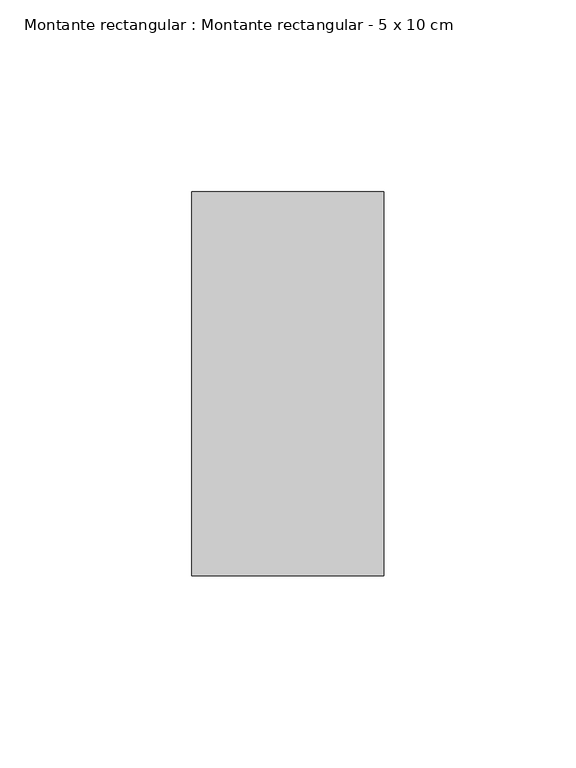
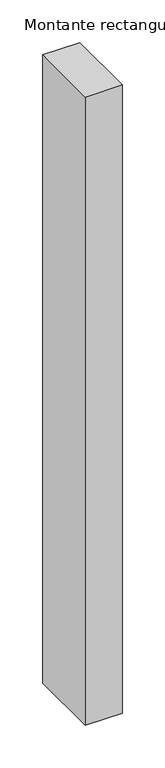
"""IFC4 building model written with IfcOpenShell, lengths in millimetres: member geometry, Montante rectangular : Montante rectangular - 5 x 10 cm."""

import ifcopenshell
import ifcopenshell.guid

model = None  # the IFC model being written
_history = None  # IfcOwnerHistory: only IFC2X3 demands one
_inside = {}  # id of a spatial element -> (the spatial element, [elements in it])
_under = {}  # id of a project, library or spatial element -> (it, [spatial elements below it])
_declared = {}  # id of a project -> (the project, [libraries it declares])
_typed = {}  # id of a type object -> (the type object, [elements of that type])
_made_of = {}  # id of a material, layer set ... -> (it, [elements and type objects made of it])


def new_model(schema):
    """Start an empty IFC model of exactly this schema.

    Asked for "IFC4X3", IfcOpenShell would pick the latest addendum, in which some entities
    have other attributes; the version numbers below select the first issue.
    IFC2X3 requires an IfcOwnerHistory on every rooted entity: one is made here for all.
    """
    global model, _history
    if schema == "IFC4X3":
        model = ifcopenshell.file(schema_version=(4, 3, 0, 0))
    else:
        model = ifcopenshell.file(schema=schema)
    _inside.clear()
    _under.clear()
    _declared.clear()
    _typed.clear()
    _made_of.clear()
    _history = None
    if model.schema == "IFC2X3":
        org = make("IfcOrganization", Name="unknown")
        user = make(
            "IfcPersonAndOrganization",
            ThePerson=make("IfcPerson", FamilyName="unknown"),
            TheOrganization=org,
        )
        app = make(
            "IfcApplication",
            ApplicationDeveloper=org,
            Version="unknown",
            ApplicationFullName="unknown",
            ApplicationIdentifier="unknown",
        )
        _history = make(
            "IfcOwnerHistory",
            OwningUser=user,
            OwningApplication=app,
            ChangeAction="ADDED",
            CreationDate=0,
        )
    return model


def make(cls, **values):
    """One entity of the class cls with the attributes given. An attribute that is None is left unset."""
    return model.create_entity(
        cls, **{name: value for name, value in values.items() if value is not None}
    )


def rooted(cls, **values):
    """An entity with a GlobalId (a new one), such as an element, a storey or a relation."""
    return make(cls, GlobalId=ifcopenshell.guid.new(), OwnerHistory=_history, **values)


def si_unit(unit_type, name, prefix=None):
    """IfcSIUnit, for example si_unit("LENGTHUNIT", "METRE", prefix="MILLI")."""
    return make("IfcSIUnit", UnitType=unit_type, Prefix=prefix, Name=name)


def assignment(units):
    """IfcUnitAssignment: the units of a project."""
    return None if units is None else make("IfcUnitAssignment", Units=units)


def point(xyz):
    """IfcCartesianPoint."""
    return None if xyz is None else make("IfcCartesianPoint", Coordinates=xyz)


def direction(xyz):
    """IfcDirection."""
    return None if xyz is None else make("IfcDirection", DirectionRatios=xyz)


def frame(location, z_axis=None, x_axis=None):
    """IfcAxis2Placement3D, a coordinate frame: its origin and axes. An axis left out is left unset."""
    return make(
        "IfcAxis2Placement3D",
        Location=point(location),
        Axis=direction(z_axis),
        RefDirection=direction(x_axis),
    )


def origin():
    """The frame at (0, 0, 0) with its axes left unset."""
    return frame((0.0, 0.0, 0.0))


def place(relative_to, where):
    """IfcLocalPlacement: puts the frame where relative to a parent placement (None: the world)."""
    return make(
        "IfcLocalPlacement", PlacementRelTo=relative_to, RelativePlacement=where
    )


def context(
    kind, dimensions, precision=None, world=None, true_north=None, identifier=None
):
    """IfcGeometricRepresentationContext, for example the 3D "Model" context."""
    return make(
        "IfcGeometricRepresentationContext",
        ContextIdentifier=identifier,
        ContextType=kind,
        CoordinateSpaceDimension=dimensions,
        Precision=precision,
        WorldCoordinateSystem=world,
        TrueNorth=true_north,
    )


def project(units=None, contexts=None):
    """IfcProject with its units and contexts."""
    return rooted(
        "IfcProject",
        Name="project",
        RepresentationContexts=contexts,
        UnitsInContext=assignment(units),
    )


def spatial(cls, under=None, at=None, **own):
    """A site, building, storey or space (cls), placed at a placement, below another one or the project."""
    s = rooted(cls, ObjectPlacement=at, **own)
    if under is not None:
        _under.setdefault(under.id(), (under, []))[1].append(s)
    return s


def polyline(points):
    """IfcPolyline through the points."""
    return make("IfcPolyline", Points=[point(p) for p in points])


def outline(outer, holes=None, kind="AREA"):
    """IfcArbitraryClosedProfileDef: a profile drawn as a closed curve; with holes, ...WithVoids."""
    if holes is None:
        return make("IfcArbitraryClosedProfileDef", ProfileType=kind, OuterCurve=outer)
    return make(
        "IfcArbitraryProfileDefWithVoids",
        ProfileType=kind,
        OuterCurve=outer,
        InnerCurves=holes,
    )


def extrude(swept, where, along, depth):
    """IfcExtrudedAreaSolid: the profile swept, set in the frame where, extruded along a direction by depth."""
    return make(
        "IfcExtrudedAreaSolid",
        SweptArea=swept,
        Position=where,
        ExtrudedDirection=direction(along),
        Depth=depth,
    )


def shape(context_of_items, identifier, shape_type, items):
    """IfcShapeRepresentation: the items that make up one representation, for example the "Body"."""
    return make(
        "IfcShapeRepresentation",
        ContextOfItems=context_of_items,
        RepresentationIdentifier=identifier,
        RepresentationType=shape_type,
        Items=items,
    )


def source(mapping_origin, context_of_items, identifier, shape_type, items):
    """IfcRepresentationMap: a shape defined once, which mapped items show again and again."""
    return make(
        "IfcRepresentationMap",
        MappingOrigin=mapping_origin,
        MappedRepresentation=shape(context_of_items, identifier, shape_type, items),
    )


def transform(
    local_origin,
    x_axis=None,
    y_axis=None,
    z_axis=None,
    scale=None,
    scale2=None,
    scale3=None,
    uniform=True,
):
    """IfcCartesianTransformationOperator3D, or its non-uniform kind. x_axis, y_axis, z_axis: its Axis1, 2, 3."""
    if uniform:
        return make(
            "IfcCartesianTransformationOperator3D",
            Axis1=direction(x_axis),
            Axis2=direction(y_axis),
            LocalOrigin=point(local_origin),
            Scale=scale,
            Axis3=direction(z_axis),
        )
    return make(
        "IfcCartesianTransformationOperator3DnonUniform",
        Axis1=direction(x_axis),
        Axis2=direction(y_axis),
        LocalOrigin=point(local_origin),
        Scale=scale,
        Axis3=direction(z_axis),
        Scale2=scale2,
        Scale3=scale3,
    )


def mapped(mapping_source, mapping_target):
    """IfcMappedItem: shows the shape of a source again, moved by a transform."""
    return make(
        "IfcMappedItem", MappingSource=mapping_source, MappingTarget=mapping_target
    )


def made_of(thing, what):
    """Note that an element or type object is made of a material, layer set ...; save() writes the relation."""
    if what is not None:
        _made_of.setdefault(what.id(), (what, []))[1].append(thing)
    return thing


def element(
    cls,
    number,
    at=None,
    inside=None,
    cuts=None,
    type_object=None,
    material=None,
    context=None,
    identifier="Body",
    shape_type=None,
    held_by="IfcProductDefinitionShape",
    body=None,
    shapes=None,
    **own,
):
    """One element of the class cls, such as IfcWall. Its Tag is "e" and its number.

    at: its placement. inside: the storey or other place that contains it. cuts: it is an
    opening in that element (IfcRelVoidsElement). A single representation is given by context,
    identifier, shape_type and body (its items); several are given by shapes. held_by: the class
    of the entity that holds the representations. save() writes the other relations.
    """
    e = rooted(cls, Tag="e%d" % number, ObjectPlacement=at, **own)
    if body is not None:
        shapes = [shape(context, identifier, shape_type, body)]
    if shapes is not None:
        e.Representation = make(held_by, Representations=shapes)
    if inside is not None:
        _inside.setdefault(inside.id(), (inside, []))[1].append(e)
    if cuts is not None:
        rooted(
            "IfcRelVoidsElement", RelatingBuildingElement=cuts, RelatedOpeningElement=e
        )
    if type_object is not None:
        _typed.setdefault(type_object.id(), (type_object, []))[1].append(e)
    return made_of(e, material)


def aggregate(whole, parts):
    """IfcRelAggregates: a whole, such as a stair, and the parts it consists of."""
    return rooted("IfcRelAggregates", RelatingObject=whole, RelatedObjects=parts)


def save(model, path):
    """Write the relations noted so far, then the file.

    IfcRelAggregates (storeys below a building ...), IfcRelContainedInSpatialStructure (elements
    in a storey), IfcRelDefinesByType, IfcRelAssociatesMaterial and IfcRelDeclares: one each for
    every whole, place, type object, material and project.
    """
    for whole, parts in _under.values():
        aggregate(whole, parts)
    for where, things in _inside.values():
        rooted(
            "IfcRelContainedInSpatialStructure",
            RelatedElements=things,
            RelatingStructure=where,
        )
    for kind, things in _typed.values():
        rooted("IfcRelDefinesByType", RelatedObjects=things, RelatingType=kind)
    for what, things in _made_of.values():
        rooted("IfcRelAssociatesMaterial", RelatedObjects=things, RelatingMaterial=what)
    for by, libraries in _declared.values():
        rooted("IfcRelDeclares", RelatingContext=by, RelatedDefinitions=libraries)
    model.write(path)


def montante_rectangular_montante_rectangular_5_x_10_cm_c640f651(model_context):
    return source(origin(), model_context, "Body", "SweptSolid", [
        extrude(outline(polyline([(25.0, 50.0), (25.0, -50.0), (-25.0, -50.0), (-25.0, 50.0), (25.0, 50.0)])), frame((0.0, 0.0, -900.0), z_axis=(0.0, 0.0, 1.0), x_axis=(1.0, 0.0, 0.0)), (0.0, 0.0, 1.0), 900.0),
    ])


if __name__ == "__main__":
    model = new_model("IFC4")
    model_context = context("Model", 3, world=origin())
    ifc_project = project(units=[si_unit("LENGTHUNIT", "METRE", prefix="MILLI")], contexts=[model_context])
    site = spatial("IfcSite", under=ifc_project)
    building = spatial("IfcBuilding", under=site)
    placement = place(None, origin())
    montante_rectangular_montante_rectangular_5_x_10_cm_shape = montante_rectangular_montante_rectangular_5_x_10_cm_c640f651(model_context)
    element("IfcMember", 1, ObjectType="Montante rectangular : Montante rectangular - 5 x 10 cm", at=placement, inside=building, context=model_context, shape_type="MappedRepresentation", body=[
        mapped(montante_rectangular_montante_rectangular_5_x_10_cm_shape, transform((0.0, 0.0, 0.0), x_axis=(1.0, 0.0, 0.0), y_axis=(0.0, 1.0, 0.0), z_axis=(0.0, 0.0, 1.0))),
    ])
    save(model, "model.ifc")
